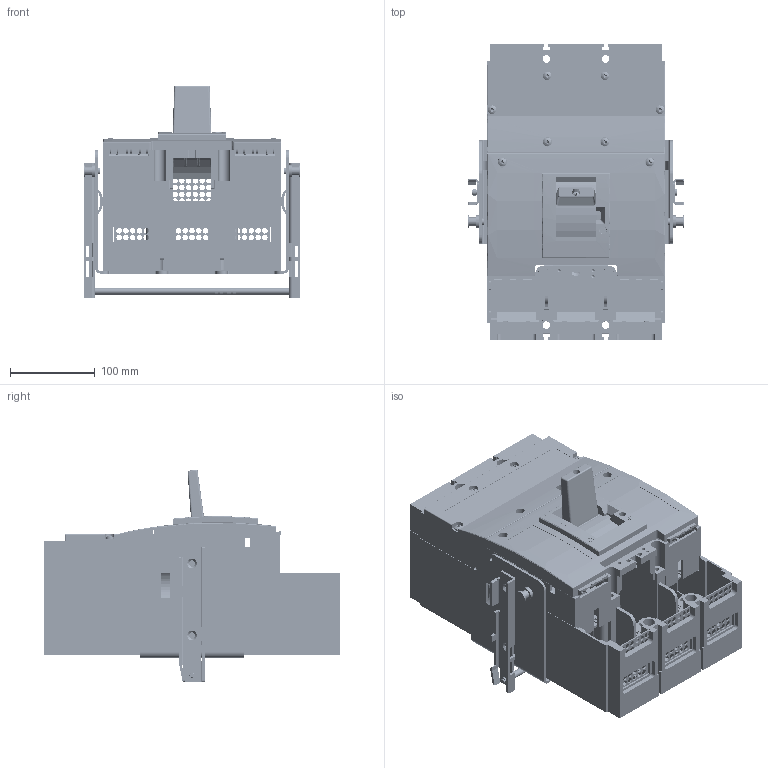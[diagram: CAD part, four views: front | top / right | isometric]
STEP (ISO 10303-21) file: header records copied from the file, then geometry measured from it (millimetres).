
FILE_DESCRIPTION (( 'STEP AP214' ), '1' );
FILE_NAME ('BL____SE320.step', '2011-09-12T07:57:56', ( 'Radek Veselý' ), ( 'Siemens and Partners' ), 'SwSTEP 2.0', 'SolidWorks 2006303', '' );
FILE_SCHEMA (( 'AUTOMOTIVE_DESIGN' ));
Length unit declared in the file: millimetre
Products named in the file (1): BL____SE320
Bounding box: 256 x 350 x 250.52 mm (x, y, z)
Volume: 3355301.2 mm3; surface area: 1315642.1 mm2
Topology: 32 solids, 32 shells, 5421 faces, 14751 edges, 9379 vertices
Faces by surface type: plane 2831, cylinder 2011, cone 216, sphere 154, torus 119, bspline 90
Entity records: 239798 total; most frequent: CARTESIAN_POINT 40921, ORIENTED_EDGE 29244, DIRECTION 28966, EDGE_CURVE 14622, AXIS2_PLACEMENT_3D 9857, VERTEX_POINT 9369, VECTOR 9252, LINE 9252
